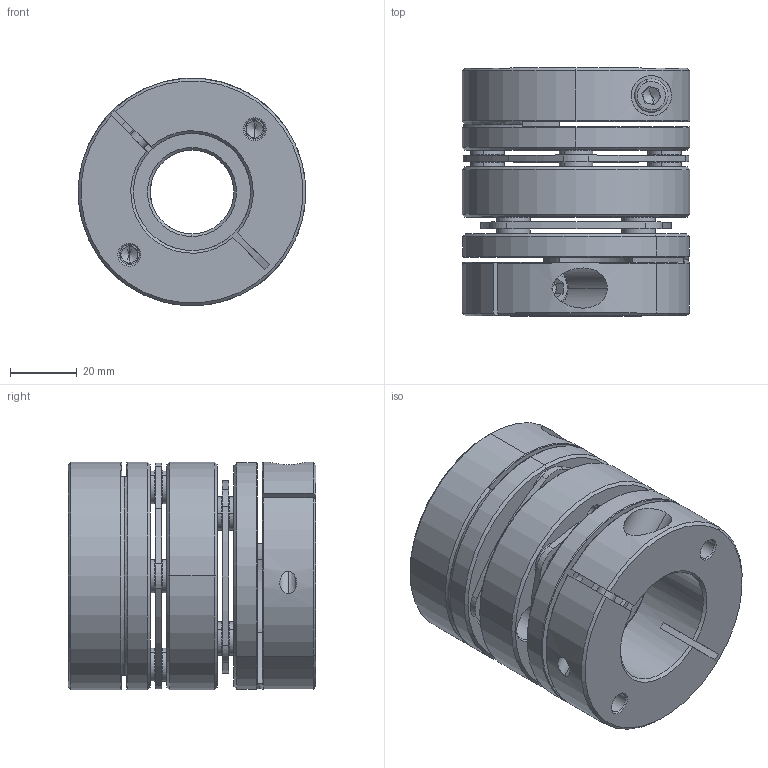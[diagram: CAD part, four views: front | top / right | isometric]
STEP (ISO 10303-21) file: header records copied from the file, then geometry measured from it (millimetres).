
FILE_DESCRIPTION (( 'STEP AP203' ), '1' );
FILE_NAME ('LD2-D68-25-35.STEP', '2021-10-26T08:45:44', ( '' ), ( '' ), 'SwSTEP 2.0', 'SolidWorks 2018', '' );
FILE_SCHEMA (( 'CONFIG_CONTROL_DESIGN' ));
Length unit declared in the file: millimetre
Products named in the file (2): 錨璃102^LD2-D68; LD2-D68-25-35
Assembly tree (1 placements, depth 2):
  LD2-D68-25-35
    錨璃102^LD2-D68
Bounding box: 68 x 74 x 68 mm (x, y, z)
Volume: 170918.8 mm3; surface area: 62801.6 mm2
Topology: 1 solids, 27 shells, 732 faces, 1696 edges, 1032 vertices
Faces by surface type: cylinder 256, cone 226, plane 220, torus 30
Entity records: 21398 total; most frequent: DIRECTION 3974, CARTESIAN_POINT 3912, ORIENTED_EDGE 3344, EDGE_CURVE 1672, AXIS2_PLACEMENT_3D 1614, VERTEX_POINT 1032, CIRCLE 878, EDGE_LOOP 868
